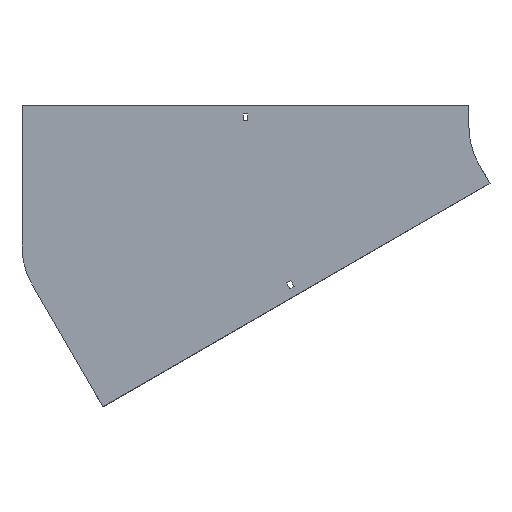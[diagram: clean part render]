
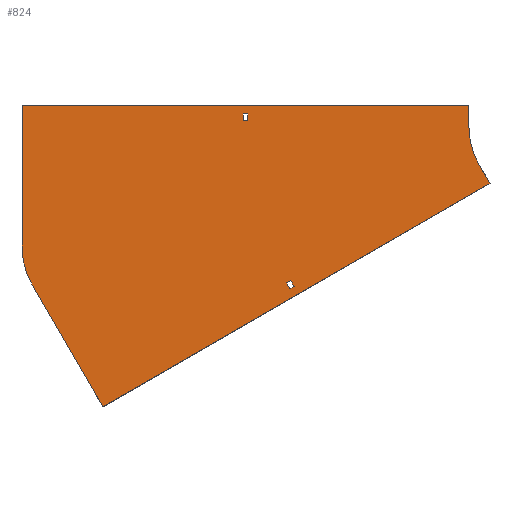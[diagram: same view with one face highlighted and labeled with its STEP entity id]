
A CAD part, front view. The second image highlights one B-rep face of the part: STEP entity #824.
In plain terms, the highlighted planar face has unit normal (0, -1, 0).
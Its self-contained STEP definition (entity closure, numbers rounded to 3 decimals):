
#9 = VECTOR ( 'NONE', #1482, 1000. ) ;
#49 = ORIENTED_EDGE ( 'NONE', *, *, #603, .F. ) ;
#63 = AXIS2_PLACEMENT_3D ( 'NONE', #1865, #223, #669 ) ;
#74 = CARTESIAN_POINT ( 'NONE',  ( -336.328, 0., -214.963 ) ) ;
#81 = VECTOR ( 'NONE', #1806, 1000. ) ;
#111 = CARTESIAN_POINT ( 'NONE',  ( -71.603, 0., -75.981 ) ) ;
#134 = ORIENTED_EDGE ( 'NONE', *, *, #1372, .F. ) ;
#139 = CARTESIAN_POINT ( 'NONE',  ( -405.25, 0., 18. ) ) ;
#141 = VERTEX_POINT ( 'NONE', #418 ) ;
#178 = AXIS2_PLACEMENT_3D ( 'NONE', #1947, #1343, #1798 ) ;
#179 = VERTEX_POINT ( 'NONE', #1701 ) ;
#181 = EDGE_CURVE ( 'NONE', #1366, #1707, #506, .T. ) ;
#182 = DIRECTION ( 'NONE',  ( 0., 0., 1. ) ) ;
#191 = EDGE_CURVE ( 'NONE', #1135, #1390, #515, .T. ) ;
#197 = LINE ( 'NONE', #1685, #550 ) ;
#223 = DIRECTION ( 'NONE',  ( 0., 1., 0. ) ) ;
#232 = VERTEX_POINT ( 'NONE', #139 ) ;
#237 = LINE ( 'NONE', #533, #837 ) ;
#239 = DIRECTION ( 'NONE',  ( 0., 0., 1. ) ) ;
#248 = CARTESIAN_POINT ( 'NONE',  ( -594.682, 0., -377.981 ) ) ;
#250 = CARTESIAN_POINT ( 'NONE',  ( -405.25, 0., 9. ) ) ;
#275 = VERTEX_POINT ( 'NONE', #1655 ) ;
#279 = CARTESIAN_POINT ( 'NONE',  ( -405.25, 0., 18. ) ) ;
#302 = ORIENTED_EDGE ( 'NONE', *, *, #1284, .T. ) ;
#320 = FACE_OUTER_BOUND ( 'NONE', #446, .T. ) ;
#323 = EDGE_CURVE ( 'NONE', #1749, #699, #1334, .T. ) ;
#344 = EDGE_LOOP ( 'NONE', ( #894, #49, #867, #1123 ) ) ;
#346 = DIRECTION ( 'NONE',  ( 0., 0., -1. ) ) ;
#360 = ORIENTED_EDGE ( 'NONE', *, *, #1318, .T. ) ;
#362 = EDGE_CURVE ( 'NONE', #141, #1135, #1047, .T. ) ;
#364 = EDGE_CURVE ( 'NONE', #1674, #275, #594, .T. ) ;
#418 = CARTESIAN_POINT ( 'NONE',  ( -100., 0., 0. ) ) ;
#425 = CARTESIAN_POINT ( 'NONE',  ( -405.25, 0., 9. ) ) ;
#433 = VERTEX_POINT ( 'NONE', #1708 ) ;
#439 = ORIENTED_EDGE ( 'NONE', *, *, #323, .T. ) ;
#446 = EDGE_LOOP ( 'NONE', ( #1549, #1527, #1928, #850, #134, #557, #1627, #624 ) ) ;
#454 = CARTESIAN_POINT ( 'NONE',  ( -398.75, 0., 18. ) ) ;
#459 = DIRECTION ( 'NONE',  ( -1., 0., 0. ) ) ;
#478 = VERTEX_POINT ( 'NONE', #1698 ) ;
#480 = DIRECTION ( 'NONE',  ( -0.866, 0., -0.5 ) ) ;
#487 = VECTOR ( 'NONE', #239, 1000. ) ;
#492 = CARTESIAN_POINT ( 'NONE',  ( -704., 0., -161.841 ) ) ;
#497 = FACE_BOUND ( 'NONE', #344, .T. ) ;
#506 = CIRCLE ( 'NONE', #63, 100. ) ;
#515 = LINE ( 'NONE', #1111, #1189 ) ;
#533 = CARTESIAN_POINT ( 'NONE',  ( -704., 0., 30. ) ) ;
#536 = EDGE_CURVE ( 'NONE', #745, #859, #237, .T. ) ;
#542 = LINE ( 'NONE', #248, #1057 ) ;
#550 = VECTOR ( 'NONE', #346, 1000. ) ;
#557 = ORIENTED_EDGE ( 'NONE', *, *, #191, .F. ) ;
#583 = CARTESIAN_POINT ( 'NONE',  ( -341.957, 0., -218.213 ) ) ;
#589 = VECTOR ( 'NONE', #834, 1000. ) ;
#594 = LINE ( 'NONE', #754, #81 ) ;
#603 = EDGE_CURVE ( 'NONE', #478, #433, #1144, .T. ) ;
#615 = EDGE_CURVE ( 'NONE', #179, #1366, #542, .T. ) ;
#624 = ORIENTED_EDGE ( 'NONE', *, *, #1570, .F. ) ;
#639 = EDGE_LOOP ( 'NONE', ( #302, #360, #751, #439 ) ) ;
#669 = DIRECTION ( 'NONE',  ( 0., 0., 1. ) ) ;
#699 = VERTEX_POINT ( 'NONE', #425 ) ;
#729 = CARTESIAN_POINT ( 'NONE',  ( -71.603, 0., -75.981 ) ) ;
#745 = VERTEX_POINT ( 'NONE', #781 ) ;
#751 = ORIENTED_EDGE ( 'NONE', *, *, #1679, .T. ) ;
#754 = CARTESIAN_POINT ( 'NONE',  ( -340.828, 0., -207.169 ) ) ;
#760 = FACE_BOUND ( 'NONE', #639, .T. ) ;
#781 = CARTESIAN_POINT ( 'NONE',  ( -704., 0., 30. ) ) ;
#824 = ADVANCED_FACE ( 'NONE', ( #760, #320, #497 ), #1093, .T. ) ;
#834 = DIRECTION ( 'NONE',  ( 0.5, 0., -0.866 ) ) ;
#837 = VECTOR ( 'NONE', #1267, 1000. ) ;
#845 = DIRECTION ( 'NONE',  ( -0.5, 0., 0.866 ) ) ;
#850 = ORIENTED_EDGE ( 'NONE', *, *, #615, .F. ) ;
#859 = VERTEX_POINT ( 'NONE', #923 ) ;
#865 = VECTOR ( 'NONE', #1156, 1000. ) ;
#867 = ORIENTED_EDGE ( 'NONE', *, *, #1085, .F. ) ;
#894 = ORIENTED_EDGE ( 'NONE', *, *, #1742, .F. ) ;
#912 = DIRECTION ( 'NONE',  ( 0., 0., -1. ) ) ;
#916 = LINE ( 'NONE', #492, #1585 ) ;
#923 = CARTESIAN_POINT ( 'NONE',  ( -100., 0., 30. ) ) ;
#1010 = LINE ( 'NONE', #279, #9 ) ;
#1047 = CIRCLE ( 'NONE', #178, 100. ) ;
#1057 = VECTOR ( 'NONE', #845, 1000. ) ;
#1072 = EDGE_CURVE ( 'NONE', #1707, #745, #916, .T. ) ;
#1085 = EDGE_CURVE ( 'NONE', #275, #478, #1520, .T. ) ;
#1093 = PLANE ( 'NONE',  #1855 ) ;
#1111 = CARTESIAN_POINT ( 'NONE',  ( -86.603, 0., -50. ) ) ;
#1123 = ORIENTED_EDGE ( 'NONE', *, *, #364, .F. ) ;
#1125 = DIRECTION ( 'NONE',  ( 0., 0., -1. ) ) ;
#1134 = CARTESIAN_POINT ( 'NONE',  ( -398.75, 0., 9. ) ) ;
#1135 = VERTEX_POINT ( 'NONE', #1235 ) ;
#1142 = VECTOR ( 'NONE', #1125, 1000. ) ;
#1144 = LINE ( 'NONE', #1278, #589 ) ;
#1156 = DIRECTION ( 'NONE',  ( -0.866, 0., -0.5 ) ) ;
#1164 = CARTESIAN_POINT ( 'NONE',  ( -405.25, 0., 9. ) ) ;
#1181 = DIRECTION ( 'NONE',  ( 0.866, 0., 0.5 ) ) ;
#1188 = CARTESIAN_POINT ( 'NONE',  ( -398.75, 0., 9. ) ) ;
#1189 = VECTOR ( 'NONE', #1713, 1000. ) ;
#1206 = LINE ( 'NONE', #583, #1644 ) ;
#1235 = CARTESIAN_POINT ( 'NONE',  ( -86.603, 0., -50. ) ) ;
#1267 = DIRECTION ( 'NONE',  ( 1., 0., 0. ) ) ;
#1278 = CARTESIAN_POINT ( 'NONE',  ( -346.457, 0., -210.419 ) ) ;
#1279 = LINE ( 'NONE', #250, #487 ) ;
#1284 = EDGE_CURVE ( 'NONE', #699, #232, #1279, .T. ) ;
#1318 = EDGE_CURVE ( 'NONE', #232, #1709, #1010, .T. ) ;
#1334 = LINE ( 'NONE', #1164, #1467 ) ;
#1343 = DIRECTION ( 'NONE',  ( 0., -1., 0. ) ) ;
#1366 = VERTEX_POINT ( 'NONE', #1475 ) ;
#1372 = EDGE_CURVE ( 'NONE', #1390, #179, #1631, .T. ) ;
#1390 = VERTEX_POINT ( 'NONE', #729 ) ;
#1393 = CARTESIAN_POINT ( 'NONE',  ( -346.457, 0., -210.419 ) ) ;
#1467 = VECTOR ( 'NONE', #459, 1000. ) ;
#1475 = CARTESIAN_POINT ( 'NONE',  ( -690.603, 0., -211.841 ) ) ;
#1482 = DIRECTION ( 'NONE',  ( 1., 0., 0. ) ) ;
#1520 = LINE ( 'NONE', #1393, #1937 ) ;
#1527 = ORIENTED_EDGE ( 'NONE', *, *, #1072, .F. ) ;
#1535 = DIRECTION ( 'NONE',  ( 0., -1., 0. ) ) ;
#1549 = ORIENTED_EDGE ( 'NONE', *, *, #536, .F. ) ;
#1570 = EDGE_CURVE ( 'NONE', #859, #141, #197, .T. ) ;
#1585 = VECTOR ( 'NONE', #182, 1000. ) ;
#1627 = ORIENTED_EDGE ( 'NONE', *, *, #362, .F. ) ;
#1631 = LINE ( 'NONE', #111, #865 ) ;
#1644 = VECTOR ( 'NONE', #1181, 1000. ) ;
#1655 = CARTESIAN_POINT ( 'NONE',  ( -340.828, 0., -207.169 ) ) ;
#1674 = VERTEX_POINT ( 'NONE', #74 ) ;
#1679 = EDGE_CURVE ( 'NONE', #1709, #1749, #1917, .T. ) ;
#1685 = CARTESIAN_POINT ( 'NONE',  ( -100., 0., 30. ) ) ;
#1698 = CARTESIAN_POINT ( 'NONE',  ( -346.457, 0., -210.419 ) ) ;
#1701 = CARTESIAN_POINT ( 'NONE',  ( -594.682, 0., -377.981 ) ) ;
#1707 = VERTEX_POINT ( 'NONE', #1943 ) ;
#1708 = CARTESIAN_POINT ( 'NONE',  ( -341.957, 0., -218.213 ) ) ;
#1709 = VERTEX_POINT ( 'NONE', #454 ) ;
#1713 = DIRECTION ( 'NONE',  ( 0.5, 0., -0.866 ) ) ;
#1742 = EDGE_CURVE ( 'NONE', #433, #1674, #1206, .T. ) ;
#1749 = VERTEX_POINT ( 'NONE', #1188 ) ;
#1798 = DIRECTION ( 'NONE',  ( 0., 0., -1. ) ) ;
#1806 = DIRECTION ( 'NONE',  ( -0.5, 0., 0.866 ) ) ;
#1855 = AXIS2_PLACEMENT_3D ( 'NONE', #1859, #1535, #912 ) ;
#1859 = CARTESIAN_POINT ( 'NONE',  ( 0., 0., 0. ) ) ;
#1865 = CARTESIAN_POINT ( 'NONE',  ( -604., 0., -161.841 ) ) ;
#1917 = LINE ( 'NONE', #1134, #1142 ) ;
#1928 = ORIENTED_EDGE ( 'NONE', *, *, #181, .F. ) ;
#1937 = VECTOR ( 'NONE', #480, 1000. ) ;
#1943 = CARTESIAN_POINT ( 'NONE',  ( -704., 0., -161.841 ) ) ;
#1947 = CARTESIAN_POINT ( 'NONE',  ( 0., 0., 0. ) ) ;
